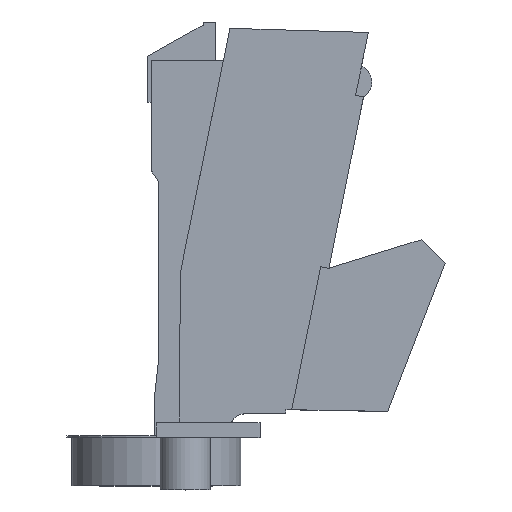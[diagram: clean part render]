
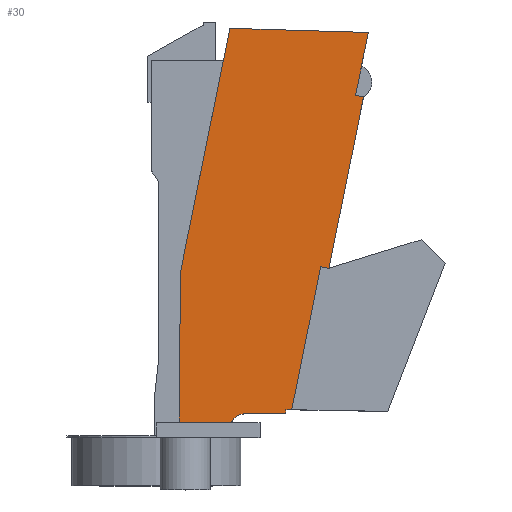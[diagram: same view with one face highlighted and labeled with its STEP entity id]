
A CAD part, top view. The second image highlights one B-rep face of the part: STEP entity #30.
In plain terms, the highlighted planar face has unit normal (0, 0, 1).
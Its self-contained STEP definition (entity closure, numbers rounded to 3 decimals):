
#30 = ADVANCED_FACE ( 'NONE', ( #859 ), #283, .F. ) ;
#96 = VERTEX_POINT ( 'NONE', #1564 ) ;
#108 = VERTEX_POINT ( 'NONE', #1576 ) ;
#112 = VERTEX_POINT ( 'NONE', #1580 ) ;
#113 = VERTEX_POINT ( 'NONE', #1581 ) ;
#122 = VERTEX_POINT ( 'NONE', #1590 ) ;
#123 = VERTEX_POINT ( 'NONE', #1591 ) ;
#130 = VERTEX_POINT ( 'NONE', #1598 ) ;
#131 = VERTEX_POINT ( 'NONE', #1599 ) ;
#132 = VERTEX_POINT ( 'NONE', #1600 ) ;
#133 = VERTEX_POINT ( 'NONE', #1601 ) ;
#134 = VERTEX_POINT ( 'NONE', #1602 ) ;
#135 = VERTEX_POINT ( 'NONE', #1603 ) ;
#136 = VERTEX_POINT ( 'NONE', #1604 ) ;
#283 = PLANE ( 'NONE',  #1471 ) ;
#286 = CARTESIAN_POINT ( 'NONE',  ( 23.835, 1.92, 12.1 ) ) ;
#292 = DIRECTION ( 'NONE',  ( 0., 0., -1. ) ) ;
#293 = DIRECTION ( 'NONE',  ( -1., 0., 0. ) ) ;
#432 = ORIENTED_EDGE ( 'NONE', *, *, #1337, .T. ) ;
#479 = ORIENTED_EDGE ( 'NONE', *, *, #1341, .T. ) ;
#569 = ORIENTED_EDGE ( 'NONE', *, *, #1338, .T. ) ;
#573 = ORIENTED_EDGE ( 'NONE', *, *, #1344, .T. ) ;
#574 = ORIENTED_EDGE ( 'NONE', *, *, #1342, .T. ) ;
#575 = ORIENTED_EDGE ( 'NONE', *, *, #1271, .F. ) ;
#613 = ORIENTED_EDGE ( 'NONE', *, *, #1333, .T. ) ;
#621 = ORIENTED_EDGE ( 'NONE', *, *, #1339, .T. ) ;
#623 = ORIENTED_EDGE ( 'NONE', *, *, #1340, .T. ) ;
#626 = ORIENTED_EDGE ( 'NONE', *, *, #1308, .T. ) ;
#627 = ORIENTED_EDGE ( 'NONE', *, *, #1343, .F. ) ;
#631 = ORIENTED_EDGE ( 'NONE', *, *, #1347, .T. ) ;
#634 = ORIENTED_EDGE ( 'NONE', *, *, #1319, .T. ) ;
#746 = EDGE_LOOP ( 'NONE', ( #623, #621, #613, #479, #432, #634, #574, #573, #575, #627, #626, #569, #631 ) ) ;
#859 = FACE_OUTER_BOUND ( 'NONE', #746, .T. ) ;
#910 = LINE ( 'NONE', #1658, #912 ) ;
#912 = VECTOR ( 'NONE', #1660, 1000. ) ;
#977 = LINE ( 'NONE', #1742, #978 ) ;
#978 = VECTOR ( 'NONE', #1743, 1000. ) ;
#999 = LINE ( 'NONE', #1764, #1000 ) ;
#1000 = VECTOR ( 'NONE', #1765, 1000. ) ;
#1025 = CIRCLE ( 'NONE', #1520, 3. ) ;
#1027 = LINE ( 'NONE', #1803, #1030 ) ;
#1030 = VECTOR ( 'NONE', #1806, 1000. ) ;
#1032 = LINE ( 'NONE', #1807, #1033 ) ;
#1033 = VECTOR ( 'NONE', #1808, 1000. ) ;
#1034 = LINE ( 'NONE', #1809, #1035 ) ;
#1035 = VECTOR ( 'NONE', #1810, 1000. ) ;
#1036 = LINE ( 'NONE', #1811, #1037 ) ;
#1037 = VECTOR ( 'NONE', #1812, 1000. ) ;
#1038 = LINE ( 'NONE', #1813, #1039 ) ;
#1039 = VECTOR ( 'NONE', #1814, 1000. ) ;
#1040 = LINE ( 'NONE', #1815, #1041 ) ;
#1041 = VECTOR ( 'NONE', #1816, 1000. ) ;
#1042 = LINE ( 'NONE', #1817, #1043 ) ;
#1043 = VECTOR ( 'NONE', #1818, 1000. ) ;
#1044 = LINE ( 'NONE', #1819, #1045 ) ;
#1045 = VECTOR ( 'NONE', #1820, 1000. ) ;
#1050 = LINE ( 'NONE', #1825, #1051 ) ;
#1051 = VECTOR ( 'NONE', #1826, 1000. ) ;
#1271 = EDGE_CURVE ( 'NONE', #122, #123, #910, .T. ) ;
#1308 = EDGE_CURVE ( 'NONE', #108, #96, #977, .T. ) ;
#1319 = EDGE_CURVE ( 'NONE', #113, #112, #999, .T. ) ;
#1333 = EDGE_CURVE ( 'NONE', #132, #133, #1025, .T. ) ;
#1337 = EDGE_CURVE ( 'NONE', #134, #113, #1027, .T. ) ;
#1338 = EDGE_CURVE ( 'NONE', #96, #136, #1032, .T. ) ;
#1339 = EDGE_CURVE ( 'NONE', #131, #132, #1034, .T. ) ;
#1340 = EDGE_CURVE ( 'NONE', #130, #131, #1036, .T. ) ;
#1341 = EDGE_CURVE ( 'NONE', #133, #134, #1038, .T. ) ;
#1342 = EDGE_CURVE ( 'NONE', #112, #135, #1040, .T. ) ;
#1343 = EDGE_CURVE ( 'NONE', #108, #122, #1042, .T. ) ;
#1344 = EDGE_CURVE ( 'NONE', #135, #123, #1044, .T. ) ;
#1347 = EDGE_CURVE ( 'NONE', #136, #130, #1050, .T. ) ;
#1471 = AXIS2_PLACEMENT_3D ( 'NONE', #286, #292, #293 ) ;
#1520 = AXIS2_PLACEMENT_3D ( 'NONE', #1793, #1795, #1796 ) ;
#1564 = CARTESIAN_POINT ( 'NONE',  ( 49.433, 83.91, 12.1 ) ) ;
#1576 = CARTESIAN_POINT ( 'NONE',  ( 46.791, 70.889, 12.1 ) ) ;
#1580 = CARTESIAN_POINT ( 'NONE',  ( 33.577, 5.765, 12.1 ) ) ;
#1581 = CARTESIAN_POINT ( 'NONE',  ( 32.38, 5.786, 12.1 ) ) ;
#1590 = CARTESIAN_POINT ( 'NONE',  ( 48.457, 70.551, 12.1 ) ) ;
#1591 = CARTESIAN_POINT ( 'NONE',  ( 41.255, 35.057, 12.1 ) ) ;
#1598 = CARTESIAN_POINT ( 'NONE',  ( 10.52, 34.28, 12.1 ) ) ;
#1599 = CARTESIAN_POINT ( 'NONE',  ( 10.242, 3., 12.1 ) ) ;
#1600 = CARTESIAN_POINT ( 'NONE',  ( 21.036, 3., 12.1 ) ) ;
#1601 = CARTESIAN_POINT ( 'NONE',  ( 23.8, 4.92, 12.1 ) ) ;
#1602 = CARTESIAN_POINT ( 'NONE',  ( 32.38, 5.02, 12.1 ) ) ;
#1603 = CARTESIAN_POINT ( 'NONE',  ( 39.589, 35.395, 12.1 ) ) ;
#1604 = CARTESIAN_POINT ( 'NONE',  ( 20.765, 84.771, 12.1 ) ) ;
#1658 = CARTESIAN_POINT ( 'NONE',  ( 41.255, 35.057, 12.1 ) ) ;
#1660 = DIRECTION ( 'NONE',  ( -0.199, -0.98, 0. ) ) ;
#1742 = CARTESIAN_POINT ( 'NONE',  ( 48.023, 76.962, 12.1 ) ) ;
#1743 = DIRECTION ( 'NONE',  ( 0.199, 0.98, 0. ) ) ;
#1764 = CARTESIAN_POINT ( 'NONE',  ( 32.38, 5.786, 12.1 ) ) ;
#1765 = DIRECTION ( 'NONE',  ( 1., -0.017, 0. ) ) ;
#1793 = CARTESIAN_POINT ( 'NONE',  ( 23.835, 1.92, 12.1 ) ) ;
#1795 = DIRECTION ( 'NONE',  ( 0., 0., -1. ) ) ;
#1796 = DIRECTION ( 'NONE',  ( -1., 0., 0. ) ) ;
#1803 = CARTESIAN_POINT ( 'NONE',  ( 32.38, 5.02, 12.1 ) ) ;
#1806 = DIRECTION ( 'NONE',  ( 0., 1., 0. ) ) ;
#1807 = CARTESIAN_POINT ( 'NONE',  ( 49.433, 83.91, 12.1 ) ) ;
#1808 = DIRECTION ( 'NONE',  ( -1., 0.03, 0. ) ) ;
#1809 = CARTESIAN_POINT ( 'NONE',  ( 23.835, 3., 12.1 ) ) ;
#1810 = DIRECTION ( 'NONE',  ( 1., 0., 0. ) ) ;
#1811 = CARTESIAN_POINT ( 'NONE',  ( 10.52, 34.28, 12.1 ) ) ;
#1812 = DIRECTION ( 'NONE',  ( -0.009, -1., 0. ) ) ;
#1813 = CARTESIAN_POINT ( 'NONE',  ( 23.8, 4.92, 12.1 ) ) ;
#1814 = DIRECTION ( 'NONE',  ( 1., 0.012, 0. ) ) ;
#1815 = CARTESIAN_POINT ( 'NONE',  ( 48.023, 76.962, 12.1 ) ) ;
#1816 = DIRECTION ( 'NONE',  ( 0.199, 0.98, 0. ) ) ;
#1817 = CARTESIAN_POINT ( 'NONE',  ( 10.961, 78.159, 12.1 ) ) ;
#1818 = DIRECTION ( 'NONE',  ( 0.98, -0.199, 0. ) ) ;
#1819 = CARTESIAN_POINT ( 'NONE',  ( 3.759, 42.665, 12.1 ) ) ;
#1820 = DIRECTION ( 'NONE',  ( 0.98, -0.199, 0. ) ) ;
#1825 = CARTESIAN_POINT ( 'NONE',  ( 20.765, 84.771, 12.1 ) ) ;
#1826 = DIRECTION ( 'NONE',  ( -0.199, -0.98, 0. ) ) ;
